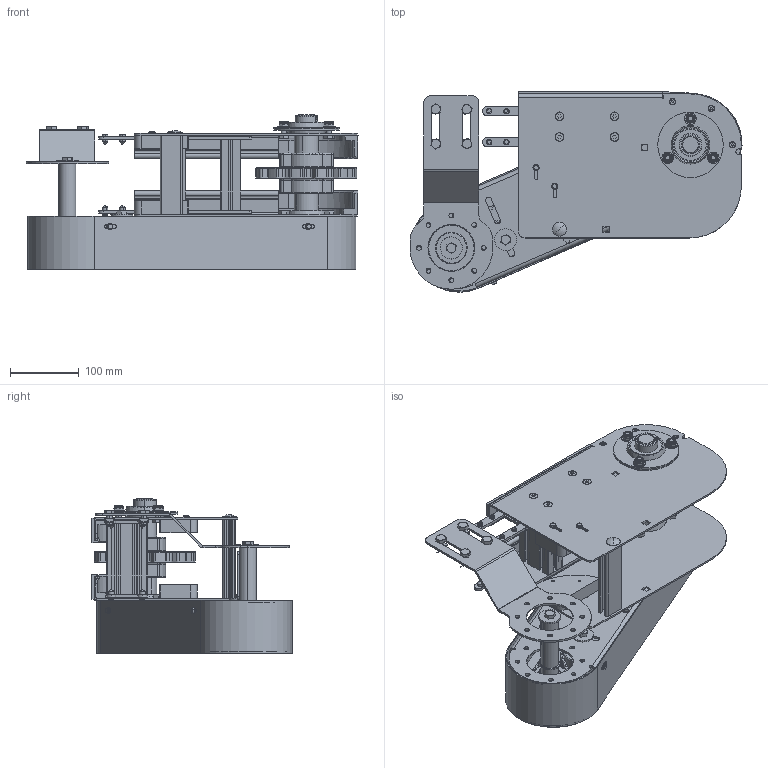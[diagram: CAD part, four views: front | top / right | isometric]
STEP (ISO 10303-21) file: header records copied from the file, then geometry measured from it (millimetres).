
FILE_DESCRIPTION (( 'STEP AP214' ), '1' );
FILE_NAME ('2000.450.349.STEP', '2020-11-20T09:07:04', ( 'Localadmin' ), ( 'Microsoft' ), 'SwSTEP 2.0', 'SolidWorks 2018', '' );
FILE_SCHEMA (( 'AUTOMOTIVE_DESIGN' ));
Length unit declared in the file: millimetre
Products named in the file (42): 61804; VITI TSEI UNI 5933 INOX_0410UNI5933A2; 2000.001.303; PROFILO POLIZENE LARGO; RONDELLE FASCIA LARGA UNI 6593 INOX_8.4x32 UNI 6593 INOX; 2000.450.303-2; CHIAVETTE_A 8x7x30 UNI 6604-69; VITI TE UNI 5739 INOX_M4x20 UNI 5739 INOX; CHIAVETTE_A 8x7x70 UNI 6604-69; 2000.450.349; 2000.001.913; RONDELLE UNI 6592 INOX_4.3x9 UNI 6592 INOX; 2000.001.305; 356.124.002; GRANI A PUNTA CONICA UNI 5927 INOX_M8x14 UNI 5927 INOX; 2000.450.002; VITI TSEI UNI 5933 INOX_0620UNI5933A2; 2000.001.307; VITI TE UNI 5739 INOX_M8x20 UNI 5739 INOX; 2000.001.306; 2000.450.104-1; DIN EN ISO 10511 - M8 - N_DIN EN ISO 10511 - M8 - N; 2000.450.103-1; RONDELLE UNI 6592 INOX_8.4x18 UNI 6592 INOX; 2000.001.006-1; BULLONI COLLO QUADRO UNI 5732 INOX_M8x20 UNI 5732; 2000.450.003; 25T10-970; 084.302.000 DADI ALUSIC 13x13-1_084.302.009; 2000.001.001; CHIAVETTE_A 8x7x50 UNI 6604-69; 2000.001.009-2; 20UNI7435_20UNI7435; VITI TE UNI 5739 INOX_M8x16 UNI 5739 INOX; 2000.001.008-2; 25UNI7435_25UNI7435; 2000.001.304; RUOTE DI TRAINO NS880_NS880T12R25; VITI TE UNI 5739 INOX_M4x10 UNI 5739 INOX; 2000.450.001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
Assembly tree (114 placements, depth 2):
  2000.450.349
    2000.450.303-2
    2000.001.303
    2000.450.301
    2000.450.001  x2
    2000.001.304  x2
    2000.001.008-2
    2000.001.009-2
    2000.001.001  x2
    2000.450.003  x2
    2000.001.006-1  x2
    2000.450.103-1
    2000.450.104-1
    2000.001.306
    2000.001.307
    2000.450.002  x2
    356.124.002
    2000.001.305
    2000.001.913
    CHIAVETTE_A 8x7x70 UNI 6604-69
    CHIAVETTE_A 8x7x30 UNI 6604-69  x2
    PROFILO POLIZENE LARGO  x2
    61804  x2
    SBPF205  x2
    RUOTE DI TRAINO NS880_NS880T12R25
    25UNI7435_25UNI7435  x2
    20UNI7435_20UNI7435
    CHIAVETTE_A 8x7x50 UNI 6604-69
    25T10-970
    RONDELLE UNI 6592 INOX_8.4x18 UNI 6592 INOX  x7
    DIN EN ISO 10511 - M8 - N_DIN EN ISO 10511 - M8 - N  x6
    VITI TE UNI 5739 INOX_M8x20 UNI 5739 INOX  x11
    VITI TSEI UNI 5933 INOX_0620UNI5933A2  x8
    GRANI A PUNTA CONICA UNI 5927 INOX_M8x14 UNI 5927 INOX  x8
    RONDELLE UNI 6592 INOX_4.3x9 UNI 6592 INOX  x8
    VITI TE UNI 5739 INOX_M4x20 UNI 5739 INOX  x4
    RONDELLE FASCIA LARGA UNI 6593 INOX_8.4x32 UNI 6593 INOX  x4
    VITI TSEI UNI 5933 INOX_0410UNI5933A2  x6
    VITI TE UNI 5739 INOX_M4x10 UNI 5739 INOX  x4
    VITI TE UNI 5739 INOX_M8x16 UNI 5739 INOX  x4
    084.302.000 DADI ALUSIC 13x13-1_084.302.009  x4
    BULLONI COLLO QUADRO UNI 5732 INOX_M8x20 UNI 5732
Bounding box: 481.65 x 290.19 x 224 mm (x, y, z)
Volume: 2359078.2 mm3; surface area: 1439523.4 mm2
Topology: 117 solids, 123 shells, 3754 faces, 9438 edges, 6012 vertices
Faces by surface type: plane 1736, cylinder 1295, cone 493, torus 212, bspline 16, sphere 2
Entity records: 72635 total; most frequent: CARTESIAN_POINT 13287, DIRECTION 12449, ORIENTED_EDGE 11628, EDGE_CURVE 5816, AXIS2_PLACEMENT_3D 4458, VERTEX_POINT 3732, VECTOR 3533, LINE 3533
